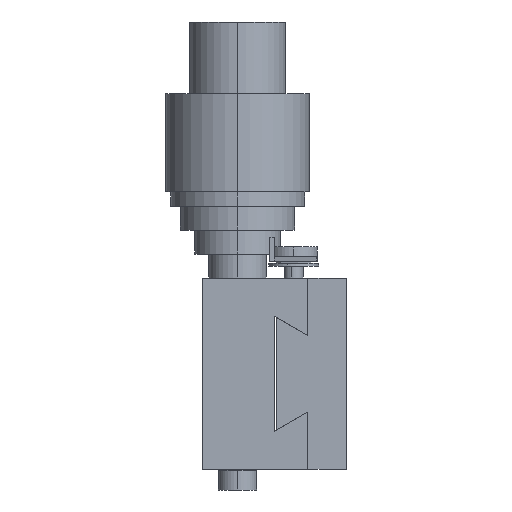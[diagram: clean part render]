
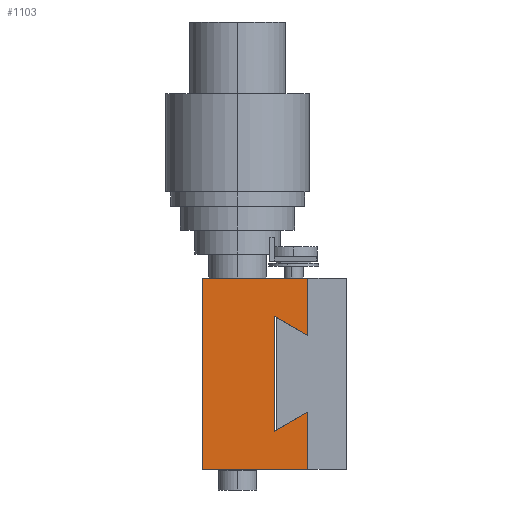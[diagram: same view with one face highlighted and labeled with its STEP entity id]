
A CAD part, left-side view. The second image highlights one B-rep face of the part: STEP entity #1103.
In plain terms, the highlighted planar face has unit normal (-1, 0, 0) as drawn and (1, 0, 0) by its records, which use the part's own axes.
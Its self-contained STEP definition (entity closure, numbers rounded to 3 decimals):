
#163 = ORIENTED_EDGE ( 'NONE', *, *, #908, .T. ) ;
#164 = ORIENTED_EDGE ( 'NONE', *, *, #894, .T. ) ;
#165 = ORIENTED_EDGE ( 'NONE', *, *, #883, .T. ) ;
#166 = ORIENTED_EDGE ( 'NONE', *, *, #897, .T. ) ;
#167 = ORIENTED_EDGE ( 'NONE', *, *, #899, .T. ) ;
#168 = ORIENTED_EDGE ( 'NONE', *, *, #901, .T. ) ;
#169 = ORIENTED_EDGE ( 'NONE', *, *, #903, .T. ) ;
#170 = ORIENTED_EDGE ( 'NONE', *, *, #905, .T. ) ;
#532 = EDGE_LOOP ( 'NONE', ( #163, #164, #165, #166, #167, #168, #169, #170 ) ) ;
#883 = EDGE_CURVE ( 'NONE', #1402, #1398, #2594, .T. ) ;
#894 = EDGE_CURVE ( 'NONE', #1399, #1402, #2620, .T. ) ;
#897 = EDGE_CURVE ( 'NONE', #1398, #1400, #2636, .T. ) ;
#899 = EDGE_CURVE ( 'NONE', #1400, #1404, #2642, .T. ) ;
#901 = EDGE_CURVE ( 'NONE', #1404, #1406, #2648, .T. ) ;
#903 = EDGE_CURVE ( 'NONE', #1406, #1407, #2654, .T. ) ;
#905 = EDGE_CURVE ( 'NONE', #1407, #1408, #2951, .T. ) ;
#908 = EDGE_CURVE ( 'NONE', #1408, #1399, #2954, .T. ) ;
#1103 = ADVANCED_FACE ( 'NONE', ( #4170 ), #4171, .F. ) ;
#1398 = VERTEX_POINT ( 'NONE', #4922 ) ;
#1399 = VERTEX_POINT ( 'NONE', #4923 ) ;
#1400 = VERTEX_POINT ( 'NONE', #4924 ) ;
#1402 = VERTEX_POINT ( 'NONE', #4926 ) ;
#1404 = VERTEX_POINT ( 'NONE', #4928 ) ;
#1406 = VERTEX_POINT ( 'NONE', #4930 ) ;
#1407 = VERTEX_POINT ( 'NONE', #4931 ) ;
#1408 = VERTEX_POINT ( 'NONE', #4932 ) ;
#2594 = LINE ( 'NONE', #2595, #2756 ) ;
#2595 = CARTESIAN_POINT ( 'NONE',  ( 20., -20., 22.75 ) ) ;
#2596 = DIRECTION ( 'NONE',  ( 0., 0., -1. ) ) ;
#2620 = LINE ( 'NONE', #2621, #2775 ) ;
#2621 = CARTESIAN_POINT ( 'NONE',  ( 20., 20., 22.75 ) ) ;
#2629 = DIRECTION ( 'NONE',  ( 0., -1., 0. ) ) ;
#2636 = LINE ( 'NONE', #2637, #2779 ) ;
#2637 = CARTESIAN_POINT ( 'NONE',  ( 20., -8., 0.75 ) ) ;
#2638 = DIRECTION ( 'NONE',  ( 0., 1., 0. ) ) ;
#2642 = LINE ( 'NONE', #2643, #2781 ) ;
#2643 = CARTESIAN_POINT ( 'NONE',  ( 20., -12.041, 7.75 ) ) ;
#2644 = DIRECTION ( 'NONE',  ( 0., -0.5, 0.866 ) ) ;
#2648 = LINE ( 'NONE', #2649, #2783 ) ;
#2649 = CARTESIAN_POINT ( 'NONE',  ( 20., 12.041, 7.75 ) ) ;
#2650 = DIRECTION ( 'NONE',  ( 0., 1., 0. ) ) ;
#2654 = LINE ( 'NONE', #2655, #2785 ) ;
#2655 = CARTESIAN_POINT ( 'NONE',  ( 20., 8., 0.75 ) ) ;
#2656 = DIRECTION ( 'NONE',  ( 0., -0.5, -0.866 ) ) ;
#2756 = VECTOR ( 'NONE', #2596, 1000. ) ;
#2775 = VECTOR ( 'NONE', #2629, 1000. ) ;
#2779 = VECTOR ( 'NONE', #2638, 1000. ) ;
#2781 = VECTOR ( 'NONE', #2644, 1000. ) ;
#2783 = VECTOR ( 'NONE', #2650, 1000. ) ;
#2785 = VECTOR ( 'NONE', #2656, 1000. ) ;
#2787 = VECTOR ( 'NONE', #2953, 1000. ) ;
#2791 = VECTOR ( 'NONE', #2962, 1000. ) ;
#2951 = LINE ( 'NONE', #2952, #2787 ) ;
#2952 = CARTESIAN_POINT ( 'NONE',  ( 20., 20., 0.75 ) ) ;
#2953 = DIRECTION ( 'NONE',  ( 0., 1., 0. ) ) ;
#2954 = LINE ( 'NONE', #2955, #2791 ) ;
#2955 = CARTESIAN_POINT ( 'NONE',  ( 20., 20., 22.75 ) ) ;
#2962 = DIRECTION ( 'NONE',  ( 0., 0., 1. ) ) ;
#3527 = AXIS2_PLACEMENT_3D ( 'NONE', #4168, #4173, #4174 ) ;
#4168 = CARTESIAN_POINT ( 'NONE',  ( 20., 20., 0.75 ) ) ;
#4170 = FACE_OUTER_BOUND ( 'NONE', #532, .T. ) ;
#4171 = PLANE ( 'NONE',  #3527 ) ;
#4173 = DIRECTION ( 'NONE',  ( -1., 0., 0. ) ) ;
#4174 = DIRECTION ( 'NONE',  ( 0., 1., 0. ) ) ;
#4922 = CARTESIAN_POINT ( 'NONE',  ( 20., -20., 0.75 ) ) ;
#4923 = CARTESIAN_POINT ( 'NONE',  ( 20., 20., 22.75 ) ) ;
#4924 = CARTESIAN_POINT ( 'NONE',  ( 20., -8., 0.75 ) ) ;
#4926 = CARTESIAN_POINT ( 'NONE',  ( 20., -20., 22.75 ) ) ;
#4928 = CARTESIAN_POINT ( 'NONE',  ( 20., -12.041, 7.75 ) ) ;
#4930 = CARTESIAN_POINT ( 'NONE',  ( 20., 12.041, 7.75 ) ) ;
#4931 = CARTESIAN_POINT ( 'NONE',  ( 20., 8., 0.75 ) ) ;
#4932 = CARTESIAN_POINT ( 'NONE',  ( 20., 20., 0.75 ) ) ;
